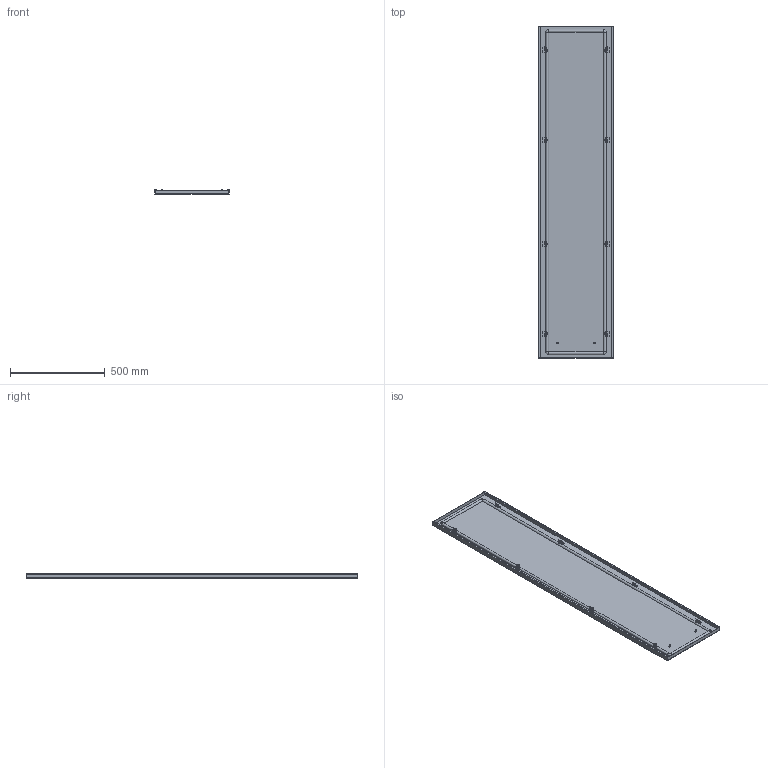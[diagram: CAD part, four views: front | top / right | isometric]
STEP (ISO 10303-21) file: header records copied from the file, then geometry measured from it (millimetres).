
FILE_DESCRIPTION(('Open CASCADE Model'),'2;1');
FILE_NAME('Open CASCADE Shape Model','2025-02-07T16:30:46',('Author'),( 'Open CASCADE'),'Open CASCADE STEP processor 7.8','Open CASCADE 7.8' ,'Unknown');
FILE_SCHEMA(('AUTOMOTIVE_DESIGN { 1 0 10303 214 1 1 1 1 }'));
Length unit declared in the file: millimetre
Products named in the file (10): Compound1; Compound2; Compound3; Solid1; Solid2; Solid3; Solid4; Solid5; Solid6; Solid7
Assembly tree (40 placements, depth 4):
  Compound1
    Compound2
      Compound3
        Solid1
        Solid2  x4
      Solid3
    Solid4  x8
    Solid5  x8
    Solid6  x8
    Solid7  x8
Bounding box: 394 x 1755 x 23.8 mm (x, y, z)
Volume: 1585912.3 mm3; surface area: 1807812.5 mm2
Topology: 38 solids, 38 shells, 1655 faces, 4040 edges, 2460 vertices
Faces by surface type: plane 1043, cone 308, cylinder 268, torus 28, bspline 8
Full cylindrical faces by diameter (mm): 5 x16, 6 x132, 7.5 x4, 8 x16, 10 x8, 11.57 x8
Entity records: 7757 total; most frequent: CARTESIAN_POINT 1447, DIRECTION 1265, ORIENTED_EDGE 1244, EDGE_CURVE 622, AXIS2_PLACEMENT_3D 428, LINE 409, VECTOR 409, VERTEX_POINT 387
